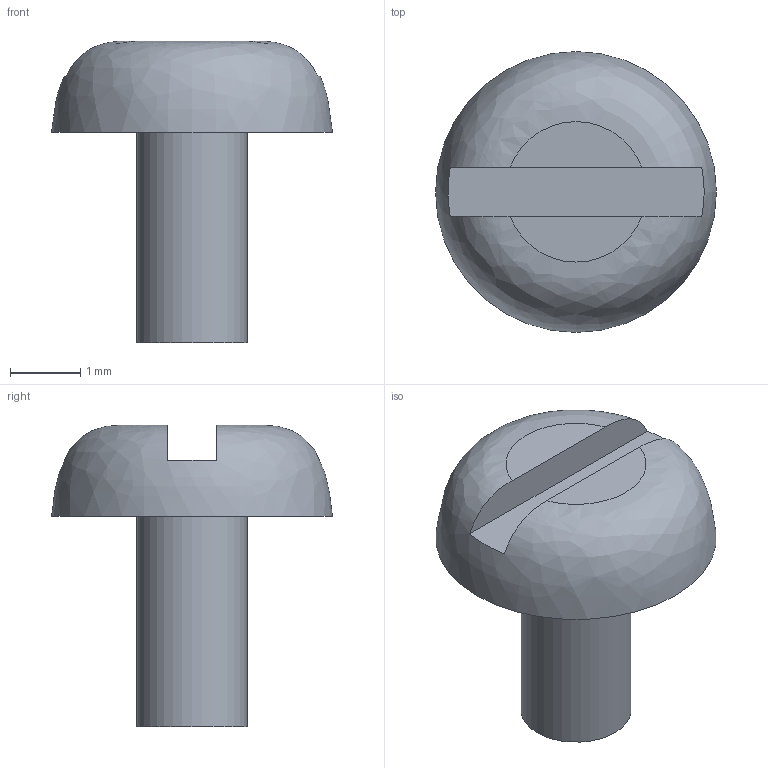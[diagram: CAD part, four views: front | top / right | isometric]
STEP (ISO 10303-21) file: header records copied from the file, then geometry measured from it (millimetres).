
FILE_DESCRIPTION(('Open CASCADE Model'),'2;1');
FILE_NAME('C27_R2_HW_LTE_14_-32','2026-09-09T17:52:57',('Author'),( 'Open CASCADE'),'Open CASCADE STEP processor 7.9','build123d', 'Unknown');
FILE_SCHEMA(('AUTOMOTIVE_DESIGN { 1 0 10303 214 1 1 1 1 }'));
Length unit declared in the file: millimetre
Products named in the file (2): C27_R2_HW_LTE_14_-32
Assembly tree (1 placements, depth 2):
  C27_R2_HW_LTE_14_-32
    C27_R2_HW_LTE_14_-32
Bounding box: 4 x 4 x 4.3 mm (x, y, z)
Volume: 18.2 mm3; surface area: 52.8 mm2
Topology: 1 solids, 1 shells, 9 faces, 18 edges, 12 vertices
Faces by surface type: plane 7, revolution 1, cylinder 1
Full cylindrical faces by diameter (mm): 1.567 x1
Entity records: 921 total; most frequent: CARTESIAN_POINT 519, DIRECTION 58, ORIENTED_EDGE 36, PCURVE 36, DEFINITIONAL_REPRESENTATION 36, B_SPLINE_CURVE_WITH_KNOTS 23, LINE 22, VECTOR 22
